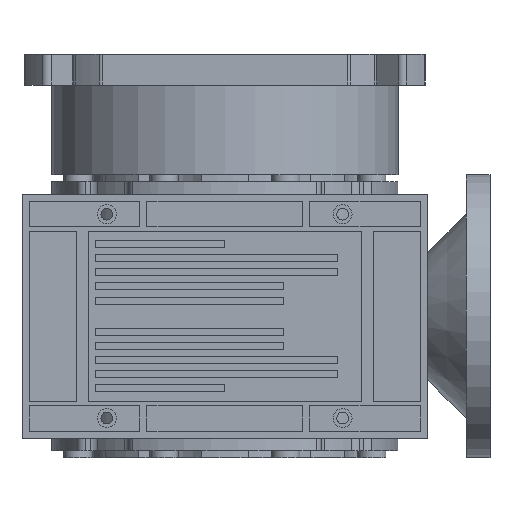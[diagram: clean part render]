
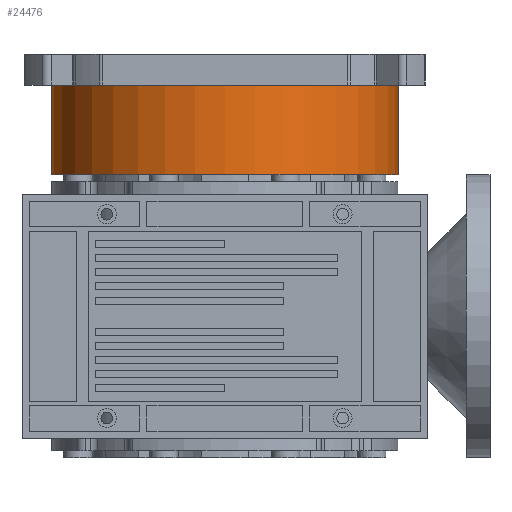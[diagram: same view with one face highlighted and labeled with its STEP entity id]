
A CAD part, front view. The second image highlights one B-rep face of the part: STEP entity #24476.
In plain terms, the highlighted cylindrical face has radius 73.5 mm (diameter 147 mm), a partial arc.
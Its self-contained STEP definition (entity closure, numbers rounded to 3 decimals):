
#1262 = EDGE_CURVE ( 'NONE', #9469, #4594, #27543, .T. ) ;
#3707 = CIRCLE ( 'NONE', #17040, 73.5 ) ;
#4594 = VERTEX_POINT ( 'NONE', #14737 ) ;
#5350 = VERTEX_POINT ( 'NONE', #5565 ) ;
#5565 = CARTESIAN_POINT ( 'NONE',  ( -73.5, 0., 98. ) ) ;
#9469 = VERTEX_POINT ( 'NONE', #40574 ) ;
#12464 = DIRECTION ( 'NONE',  ( 0., 0., -1. ) ) ;
#12863 = CARTESIAN_POINT ( 'NONE',  ( 0., 0., 60. ) ) ;
#12937 = DIRECTION ( 'NONE',  ( 0., 0., -1. ) ) ;
#13916 = ORIENTED_EDGE ( 'NONE', *, *, #31738, .T. ) ;
#14228 = CARTESIAN_POINT ( 'NONE',  ( -73.5, 0., 0. ) ) ;
#14320 = CIRCLE ( 'NONE', #24093, 73.5 ) ;
#14737 = CARTESIAN_POINT ( 'NONE',  ( 73.5, 0., 60. ) ) ;
#15095 = DIRECTION ( 'NONE',  ( 0., 0., -1. ) ) ;
#15361 = VECTOR ( 'NONE', #20726, 1000. ) ;
#15382 = CARTESIAN_POINT ( 'NONE',  ( 73.5, 0., 0. ) ) ;
#15554 = DIRECTION ( 'NONE',  ( 0., 0., -1. ) ) ;
#17040 = AXIS2_PLACEMENT_3D ( 'NONE', #12863, #15554, #19039 ) ;
#18695 = EDGE_CURVE ( 'NONE', #5350, #23967, #24549, .T. ) ;
#19039 = DIRECTION ( 'NONE',  ( -1., 0., 0. ) ) ;
#19728 = CARTESIAN_POINT ( 'NONE',  ( 0., 0., 98. ) ) ;
#20726 = DIRECTION ( 'NONE',  ( 0., 0., -1. ) ) ;
#20985 = ORIENTED_EDGE ( 'NONE', *, *, #18695, .T. ) ;
#22611 = EDGE_CURVE ( 'NONE', #4594, #23967, #3707, .T. ) ;
#23059 = DIRECTION ( 'NONE',  ( -1., 0., 0. ) ) ;
#23483 = FACE_OUTER_BOUND ( 'NONE', #28022, .T. ) ;
#23967 = VERTEX_POINT ( 'NONE', #42878 ) ;
#24093 = AXIS2_PLACEMENT_3D ( 'NONE', #19728, #12937, #23059 ) ;
#24476 = ADVANCED_FACE ( 'NONE', ( #23483 ), #38171, .T. ) ;
#24549 = LINE ( 'NONE', #14228, #15361 ) ;
#25236 = AXIS2_PLACEMENT_3D ( 'NONE', #29828, #12464, #36690 ) ;
#27543 = LINE ( 'NONE', #15382, #30237 ) ;
#28022 = EDGE_LOOP ( 'NONE', ( #38970, #13916, #20985, #40983 ) ) ;
#29828 = CARTESIAN_POINT ( 'NONE',  ( 0., 0., 0. ) ) ;
#30237 = VECTOR ( 'NONE', #15095, 1000. ) ;
#31738 = EDGE_CURVE ( 'NONE', #9469, #5350, #14320, .T. ) ;
#36690 = DIRECTION ( 'NONE',  ( -1., 0., 0. ) ) ;
#38171 = CYLINDRICAL_SURFACE ( 'NONE', #25236, 73.5 ) ;
#38970 = ORIENTED_EDGE ( 'NONE', *, *, #1262, .F. ) ;
#40574 = CARTESIAN_POINT ( 'NONE',  ( 73.5, 0., 98. ) ) ;
#40983 = ORIENTED_EDGE ( 'NONE', *, *, #22611, .F. ) ;
#42878 = CARTESIAN_POINT ( 'NONE',  ( -73.5, 0., 60. ) ) ;
